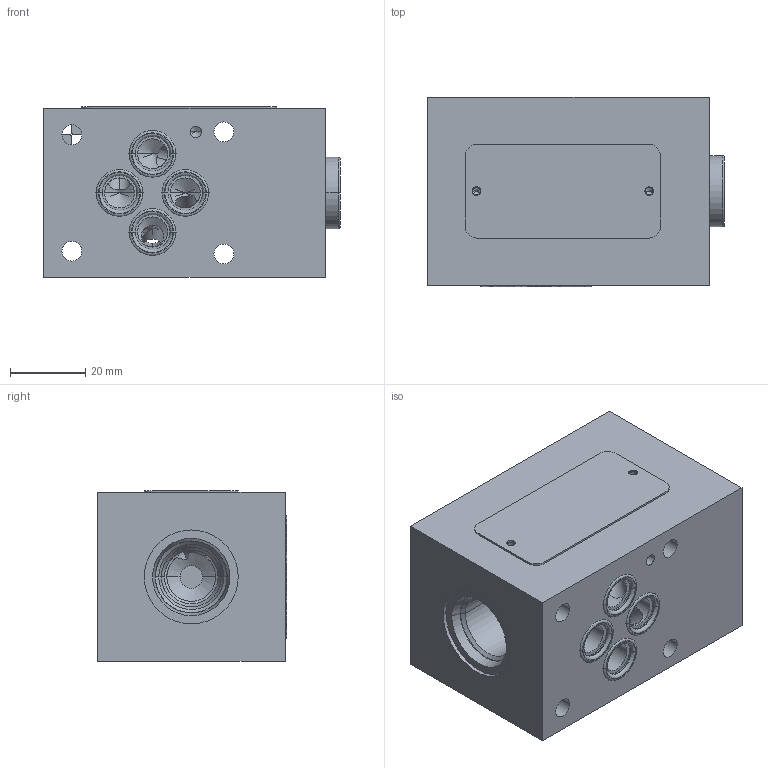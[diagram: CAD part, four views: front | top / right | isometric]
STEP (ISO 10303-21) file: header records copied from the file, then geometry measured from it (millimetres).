
FILE_DESCRIPTION((''),'2;1');
FILE_NAME('1000179969_ASM','2023-10-12T',('l.soukupova'),(''),'PRO/ENGINEER BY PARAMETRIC TECHNOLOGY CORPORATION, 2015440','PRO/ENGINEER BY PARAMETRIC TECHNOLOGY CORPORATION, 2015440','');
FILE_SCHEMA(('AUTOMOTIVE_DESIGN { 1 0 10303 214 1 1 1 1 }'));
Length unit declared in the file: millimetre
Products named in the file (5): 31627301; VSTI_1_4_EDV; ORAR00012_201524; RD_LABEL_25X52_159703; 1000179969_ASM
Assembly tree (7 placements, depth 2):
  1000179969_ASM
    31627301
    VSTI_1_4_EDV
    ORAR00012_201524  x4
    RD_LABEL_25X52_159703
Bounding box: 79 x 50.38 x 45.5 mm (x, y, z)
Volume: 147076.9 mm3; surface area: 36083.6 mm2
Topology: 7 solids, 12 shells, 249 faces, 743 edges, 590 vertices
Faces by surface type: cylinder 113, cone 52, plane 46, torus 38
Entity records: 12411 total; most frequent: CARTESIAN_POINT 2893, DIRECTION 1310, ORIENTED_EDGE 976, PRESENTATION_STYLE_ASSIGNMENT 871, STYLED_ITEM 843, CURVE_STYLE 698, AXIS2_PLACEMENT_3D 510, EDGE_CURVE 498
